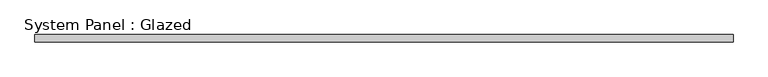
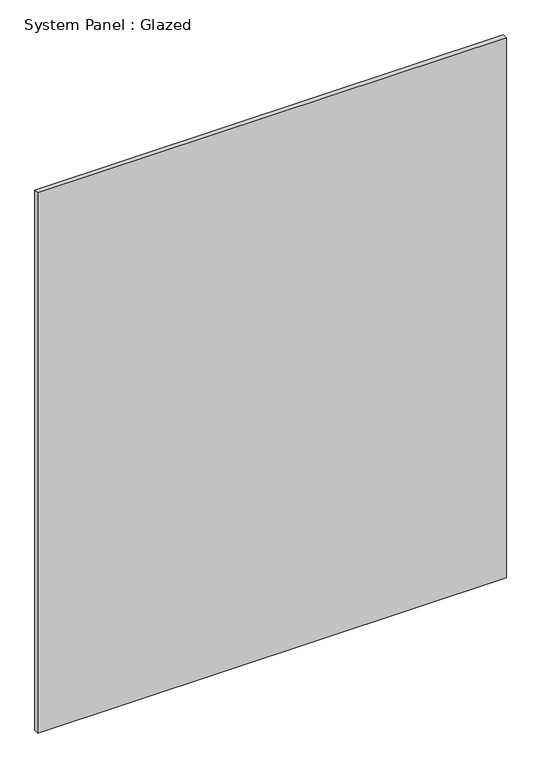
"""IFC4 building model written with IfcOpenShell, lengths in millimetres: plate geometry, System Panel : Glazed."""

from ifc_helpers import new_model, si_unit, origin, origin_with_axes, place, context, project, spatial, polyline, outline, extrude, source, transform, mapped, element, save


def system_panel_glazed_5724f4ed(model_context):
    return source(origin(), model_context, "Body", "SweptSolid", [
        extrude(outline(polyline([(1238.2499999, 19.05), (-1238.2499999, 19.05), (-1238.2499999, 44.45), (1238.2499999, 44.45), (1238.2499999, 19.05)])), origin_with_axes(), (0.0, 0.0, 1.0), 3016.25),
    ])


if __name__ == "__main__":
    model = new_model("IFC4")
    model_context = context("Model", 3, world=origin())
    ifc_project = project(units=[si_unit("LENGTHUNIT", "METRE", prefix="MILLI")], contexts=[model_context])
    site = spatial("IfcSite", under=ifc_project)
    building = spatial("IfcBuilding", under=site)
    placement = place(None, origin())
    system_panel_glazed_shape = system_panel_glazed_5724f4ed(model_context)
    element("IfcPlate", 1, ObjectType="System Panel : Glazed", at=placement, inside=building, context=model_context, shape_type="MappedRepresentation", body=[
        mapped(system_panel_glazed_shape, transform((0.0, 0.0, 0.0), x_axis=(1.0, 0.0, 0.0), y_axis=(0.0, 1.0, 0.0), z_axis=(0.0, 0.0, 1.0))),
    ])
    save(model, "model.ifc")
